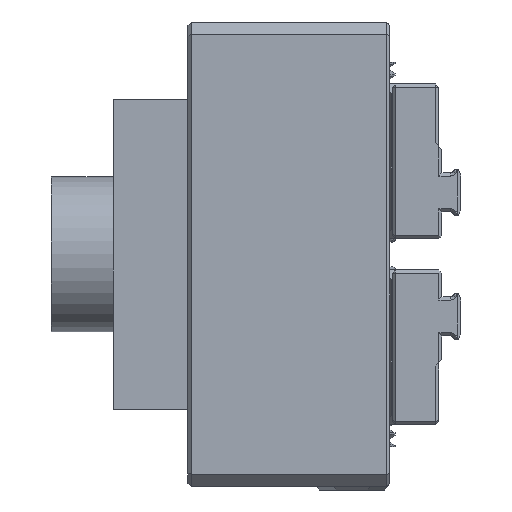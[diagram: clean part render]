
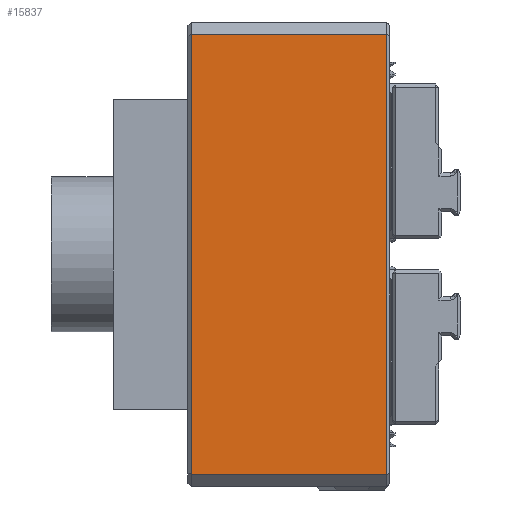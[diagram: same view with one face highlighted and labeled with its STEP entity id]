
A CAD part, front view. The second image highlights one B-rep face of the part: STEP entity #15837.
In plain terms, the highlighted planar face has unit normal (0, -1, 0).
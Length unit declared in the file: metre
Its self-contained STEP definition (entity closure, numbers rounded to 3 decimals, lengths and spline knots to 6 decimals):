
#5138=ORIENTED_EDGE('',*,*,#7824,.T.);
#5139=ORIENTED_EDGE('',*,*,#7825,.T.);
#5140=ORIENTED_EDGE('',*,*,#7826,.T.);
#5141=ORIENTED_EDGE('',*,*,#7827,.T.);
#7824=EDGE_CURVE('',#9458,#9459,#10922,.T.);
#7825=EDGE_CURVE('',#9459,#9460,#10923,.T.);
#7826=EDGE_CURVE('',#9460,#9461,#10924,.T.);
#7827=EDGE_CURVE('',#9461,#9458,#10925,.T.);
#9458=VERTEX_POINT('',#29771);
#9459=VERTEX_POINT('',#29772);
#9460=VERTEX_POINT('',#29774);
#9461=VERTEX_POINT('',#29776);
#10922=LINE('',#29770,#12432);
#10923=LINE('',#29773,#12433);
#10924=LINE('',#29775,#12434);
#10925=LINE('',#29777,#12435);
#12432=VECTOR('',#20995,1.);
#12433=VECTOR('',#20996,1.);
#12434=VECTOR('',#20997,1.);
#12435=VECTOR('',#20998,1.);
#13361=EDGE_LOOP('',(#5138,#5139,#5140,#5141));
#14341=FACE_BOUND('',#13361,.T.);
#15011=PLANE('',#17176);
#15837=ADVANCED_FACE('',(#14341),#15011,.T.);
#17176=AXIS2_PLACEMENT_3D('',#29769,#20993,#20994);
#20993=DIRECTION('',(0.,-1.,0.));
#20994=DIRECTION('',(1.,0.,0.));
#20995=DIRECTION('',(-1.,0.,0.));
#20996=DIRECTION('',(0.,0.,-1.));
#20997=DIRECTION('',(1.,0.,0.));
#20998=DIRECTION('',(0.,0.,1.));
#29769=CARTESIAN_POINT('',(0.028,-0.027,0.));
#29770=CARTESIAN_POINT('',(0.028,-0.027,0.0355));
#29771=CARTESIAN_POINT('',(0.0541,-0.027,0.0355));
#29772=CARTESIAN_POINT('',(0.0226,-0.027,0.0355));
#29773=CARTESIAN_POINT('',(0.0226,-0.027,0.));
#29774=CARTESIAN_POINT('',(0.0226,-0.027,-0.0355));
#29775=CARTESIAN_POINT('',(0.028,-0.027,-0.0355));
#29776=CARTESIAN_POINT('',(0.0541,-0.027,-0.0355));
#29777=CARTESIAN_POINT('',(0.0541,-0.027,0.0355));
